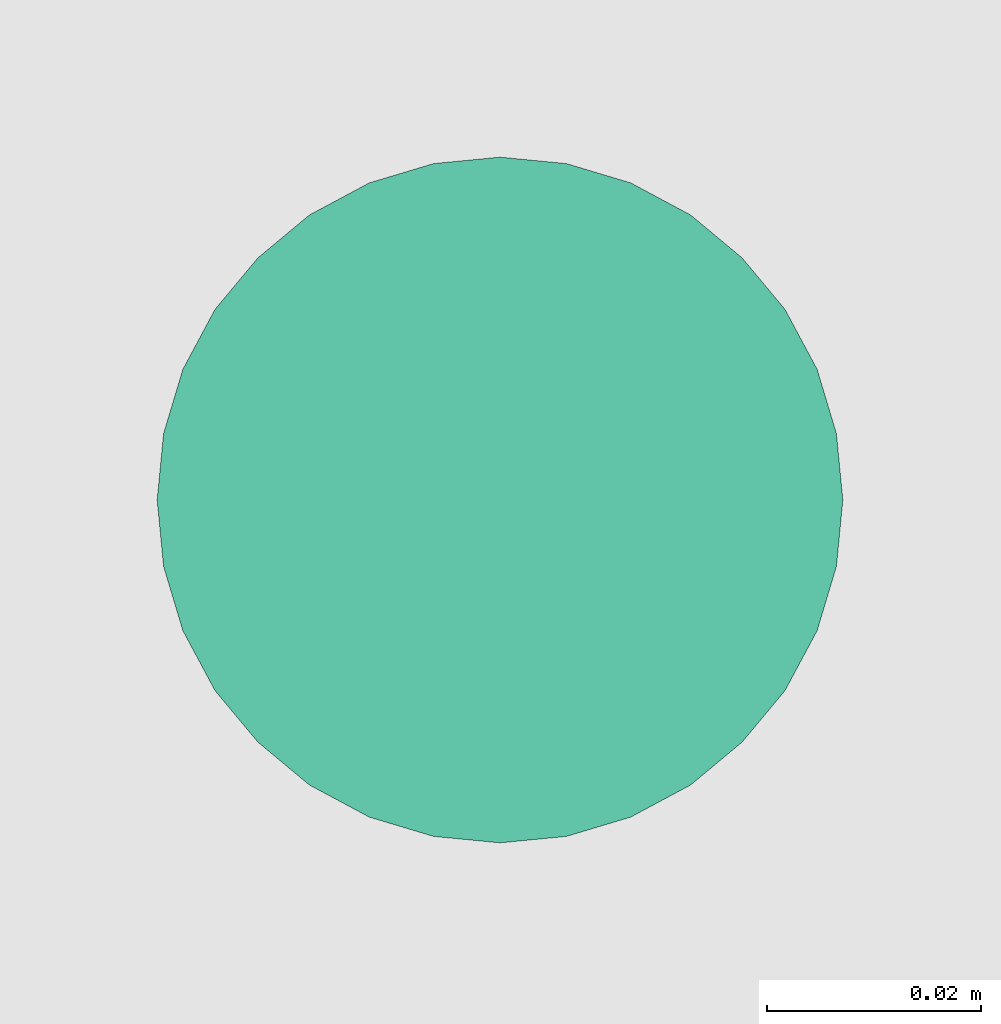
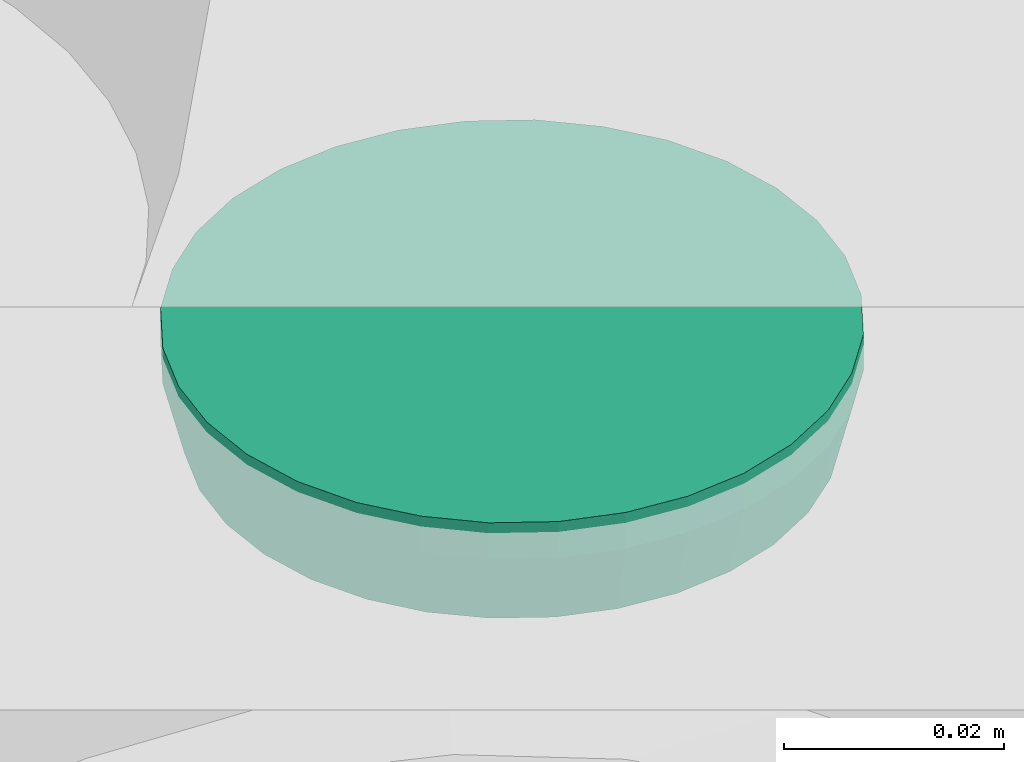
# One storey, part 11 of 11: 1 light fixture.
"""IFC4 building model written with IfcOpenShell, lengths in millimetres."""

from ifc_helpers import new_model, si_unit, frame, origin_with_axes, place, context, subcontext, project, spatial, triangles, material, constituent, constituent_set, element, save


model = new_model("IFC4")

# Units and contexts
model_context = context("Model", 3, precision=0.01, world=origin_with_axes())
body_context = subcontext(model_context, "Body", "Model", "MODEL_VIEW")
ifc_project = project(units=[si_unit("LENGTHUNIT", "METRE", prefix="MILLI"), si_unit("AREAUNIT", "SQUARE_METRE"), si_unit("VOLUMEUNIT", "CUBIC_METRE"), si_unit("PLANEANGLEUNIT", "RADIAN")], contexts=[model_context])

# Site, building, storey
site_placement = place(None, origin_with_axes())
site = spatial("IfcSite", under=ifc_project, at=site_placement, Name="Участок", CompositionType="ELEMENT")
building_placement = place(site_placement, origin_with_axes())
building = spatial("IfcBuilding", under=site, at=building_placement, Name="Жилой дом", CompositionType="ELEMENT")
storey_placement = place(building_placement, origin_with_axes())
storey = spatial("IfcBuildingStorey", under=building, at=storey_placement, Name="Квартира ±0,000", CompositionType="ELEMENT", Elevation=0.0)

# Light fixture
ifc_material_1 = material(Name="Латунь полированная (каркасы, ручки, светильники)")
ifc_constituent_1 = constituent(ifc_material_1)
ifc_material_2 = material(Name="Светодиодная лента (свечение)")
ifc_constituent_2 = constituent(ifc_material_2)
ifc_constituent_set = constituent_set(constituents=[ifc_constituent_1, ifc_constituent_2], Name="Латунь полированная (каркасы, ручки, светильники) + Светодиодная лента (свечение)")
light_fixture_placement = place(storey_placement, frame((1258.0, 3418.0, 1457.0)))
element("IfcLightFixture", 1, at=light_fixture_placement, inside=storey, material=ifc_constituent_set, Name="Светильник мебельный накладной (01г)", PredefinedType="POINTSOURCE", context=body_context, shape_type="Tessellation", body=[
    triangles([(32.0, 32.0, 1.0), (32.0, 32.0, 1.0), (32.0, 32.0, 1.0), (32.0, 32.0, 1.0), (32.0, 32.0, 1.0), (32.0, 32.0, 1.0), (32.0, 32.0, 1.0), (32.0, 32.0, 1.0), (32.0, 32.0, 1.0), (32.0, 32.0, 1.0), (32.0, 32.0, 1.0), (32.0, 32.0, 1.0), (32.0, 32.0, 1.0), (32.0, 32.0, 1.0), (32.0, 32.0, 1.0), (32.0, 32.0, 1.0), (32.0, 32.0, 1.0), (32.0, 32.0, 1.0), (32.0, 32.0, 1.0), (32.0, 32.0, 1.0), (32.0, 32.0, 1.0), (32.0, 32.0, 1.0), (32.0, 32.0, 1.0), (32.0, 32.0, 1.0), (32.0, 32.0, 1.0), (32.0, 32.0, 1.0), (32.0, 32.0, 1.0), (32.0, 32.0, 1.0), (32.0, 32.0, 1.0), (32.0, 32.0, 1.0), (32.0, 32.0, 1.0), (32.0, 32.0, 1.0), (62.0, 32.0, 1.0), (61.4, 37.9, 1.0), (59.7, 43.5, 1.0), (56.9, 48.7, 1.0), (53.2, 53.2, 1.0), (48.7, 56.9, 1.0), (43.5, 59.7, 1.0), (37.9, 61.4, 1.0), (32.0, 62.0, 1.0), (26.1, 61.4, 1.0), (20.5, 59.7, 1.0), (15.3, 56.9, 1.0), (10.8, 53.2, 1.0), (7.1, 48.7, 1.0), (4.3, 43.5, 1.0), (2.6, 37.9, 1.0), (2.0, 32.0, 1.0), (2.6, 26.1, 1.0), (4.3, 20.5, 1.0), (7.1, 15.3, 1.0), (10.8, 10.8, 1.0), (15.3, 7.1, 1.0), (20.5, 4.3, 1.0), (26.1, 2.6, 1.0), (32.0, 2.0, 1.0), (37.9, 2.6, 1.0), (43.5, 4.3, 1.0), (48.7, 7.1, 1.0), (53.2, 10.8, 1.0), (56.9, 15.3, 1.0), (59.7, 20.5, 1.0), (61.4, 26.1, 1.0), (64.0, 32.0, 9.0), (63.4, 38.2, 9.0), (61.6, 44.2, 9.0), (58.6, 49.8, 9.0), (54.6, 54.6, 9.0), (49.8, 58.6, 9.0), (44.2, 61.6, 9.0), (38.2, 63.4, 9.0), (32.0, 64.0, 9.0), (25.8, 63.4, 9.0), (19.8, 61.6, 9.0), (14.2, 58.6, 9.0), (9.4, 54.6, 9.0), (5.4, 49.8, 9.0), (2.4, 44.2, 9.0), (0.6, 38.2, 9.0), (0.0, 32.0, 9.0), (0.6, 25.8, 9.0), (2.4, 19.8, 9.0), (5.4, 14.2, 9.0), (9.4, 9.4, 9.0), (14.2, 5.4, 9.0), (19.8, 2.4, 9.0), (25.8, 0.6, 9.0), (32.0, 0.0, 9.0), (38.2, 0.6, 9.0), (44.2, 2.4, 9.0), (49.8, 5.4, 9.0), (54.6, 9.4, 9.0), (58.6, 14.2, 9.0), (61.6, 19.8, 9.0), (63.4, 25.8, 9.0), (64.0, 32.0, 13.0), (63.4, 38.2, 13.0), (61.6, 44.2, 13.0), (58.6, 49.8, 13.0), (54.6, 54.6, 13.0), (49.8, 58.6, 13.0), (44.2, 61.6, 13.0), (38.2, 63.4, 13.0), (32.0, 64.0, 13.0), (25.8, 63.4, 13.0), (19.8, 61.6, 13.0), (14.2, 58.6, 13.0), (9.4, 54.6, 13.0), (5.4, 49.8, 13.0), (2.4, 44.2, 13.0), (0.6, 38.2, 13.0), (0.0, 32.0, 13.0), (0.6, 25.8, 13.0), (2.4, 19.8, 13.0), (5.4, 14.2, 13.0), (9.4, 9.4, 13.0), (14.2, 5.4, 13.0), (19.8, 2.4, 13.0), (25.8, 0.6, 13.0), (32.0, 0.0, 13.0), (38.2, 0.6, 13.0), (44.2, 2.4, 13.0), (49.8, 5.4, 13.0), (54.6, 9.4, 13.0), (58.6, 14.2, 13.0), (61.6, 19.8, 13.0), (63.4, 25.8, 13.0), (32.0, 32.0, 13.0), (32.0, 32.0, 13.0), (32.0, 32.0, 13.0), (32.0, 32.0, 13.0), (32.0, 32.0, 13.0), (32.0, 32.0, 13.0), (32.0, 32.0, 13.0), (32.0, 32.0, 13.0), (32.0, 32.0, 13.0), (32.0, 32.0, 13.0), (32.0, 32.0, 13.0), (32.0, 32.0, 13.0), (32.0, 32.0, 13.0), (32.0, 32.0, 13.0), (32.0, 32.0, 13.0), (32.0, 32.0, 13.0), (32.0, 32.0, 13.0), (32.0, 32.0, 13.0), (32.0, 32.0, 13.0), (32.0, 32.0, 13.0), (32.0, 32.0, 13.0), (32.0, 32.0, 13.0), (32.0, 32.0, 13.0), (32.0, 32.0, 13.0), (32.0, 32.0, 13.0), (32.0, 32.0, 13.0), (32.0, 32.0, 13.0), (32.0, 32.0, 13.0), (32.0, 32.0, 13.0), (32.0, 32.0, 13.0), (32.0, 32.0, 13.0), (32.0, 32.0, 13.0)], [[1, 2, 34], [1, 34, 33], [2, 3, 35], [2, 35, 34], [3, 4, 36], [3, 36, 35], [4, 5, 37], [4, 37, 36], [5, 6, 38], [5, 38, 37], [6, 7, 39], [6, 39, 38], [7, 8, 40], [7, 40, 39], [8, 9, 41], [8, 41, 40], [9, 10, 42], [9, 42, 41], [10, 11, 43], [10, 43, 42], [11, 12, 44], [11, 44, 43], [12, 13, 45], [12, 45, 44], [13, 14, 46], [13, 46, 45], [14, 15, 47], [14, 47, 46], [15, 16, 48], [15, 48, 47], [16, 17, 49], [16, 49, 48], [17, 18, 50], [17, 50, 49], [18, 19, 51], [18, 51, 50], [19, 20, 52], [19, 52, 51], [20, 21, 53], [20, 53, 52], [21, 22, 54], [21, 54, 53], [22, 23, 55], [22, 55, 54], [23, 24, 56], [23, 56, 55], [24, 25, 57], [24, 57, 56], [25, 26, 58], [25, 58, 57], [26, 27, 59], [26, 59, 58], [27, 28, 60], [27, 60, 59], [28, 29, 61], [28, 61, 60], [29, 30, 62], [29, 62, 61], [30, 31, 63], [30, 63, 62], [31, 32, 64], [31, 64, 63], [32, 1, 33], [32, 33, 64], [33, 34, 66], [33, 66, 65], [34, 35, 67], [34, 67, 66], [35, 36, 68], [35, 68, 67], [36, 37, 69], [36, 69, 68], [37, 38, 70], [37, 70, 69], [38, 39, 71], [38, 71, 70], [39, 40, 72], [39, 72, 71], [40, 41, 73], [40, 73, 72], [41, 42, 74], [41, 74, 73], [42, 43, 75], [42, 75, 74], [43, 44, 76], [43, 76, 75], [44, 45, 77], [44, 77, 76], [45, 46, 78], [45, 78, 77], [46, 47, 79], [46, 79, 78], [47, 48, 80], [47, 80, 79], [48, 49, 81], [48, 81, 80], [49, 50, 82], [49, 82, 81], [50, 51, 83], [50, 83, 82], [51, 52, 84], [51, 84, 83], [52, 53, 85], [52, 85, 84], [53, 54, 86], [53, 86, 85], [54, 55, 87], [54, 87, 86], [55, 56, 88], [55, 88, 87], [56, 57, 89], [56, 89, 88], [57, 58, 90], [57, 90, 89], [58, 59, 91], [58, 91, 90], [59, 60, 92], [59, 92, 91], [60, 61, 93], [60, 93, 92], [61, 62, 94], [61, 94, 93], [62, 63, 95], [62, 95, 94], [63, 64, 96], [63, 96, 95], [64, 33, 65], [64, 65, 96], [65, 66, 98], [65, 98, 97], [66, 67, 99], [66, 99, 98], [67, 68, 100], [67, 100, 99], [68, 69, 101], [68, 101, 100], [69, 70, 102], [69, 102, 101], [70, 71, 103], [70, 103, 102], [71, 72, 104], [71, 104, 103], [72, 73, 105], [72, 105, 104], [73, 74, 106], [73, 106, 105], [74, 75, 107], [74, 107, 106], [75, 76, 108], [75, 108, 107], [76, 77, 109], [76, 109, 108], [77, 78, 110], [77, 110, 109], [78, 79, 111], [78, 111, 110], [79, 80, 112], [79, 112, 111], [80, 81, 113], [80, 113, 112], [81, 82, 114], [81, 114, 113], [82, 83, 115], [82, 115, 114], [83, 84, 116], [83, 116, 115], [84, 85, 117], [84, 117, 116], [85, 86, 118], [85, 118, 117], [86, 87, 119], [86, 119, 118], [87, 88, 120], [87, 120, 119], [88, 89, 121], [88, 121, 120], [89, 90, 122], [89, 122, 121], [90, 91, 123], [90, 123, 122], [91, 92, 124], [91, 124, 123], [92, 93, 125], [92, 125, 124], [93, 94, 126], [93, 126, 125], [94, 95, 127], [94, 127, 126], [95, 96, 128], [95, 128, 127], [96, 65, 97], [96, 97, 128], [97, 98, 130], [97, 130, 129], [98, 99, 131], [98, 131, 130], [99, 100, 132], [99, 132, 131], [100, 101, 133], [100, 133, 132], [101, 102, 134], [101, 134, 133], [102, 103, 135], [102, 135, 134], [103, 104, 136], [103, 136, 135], [104, 105, 137], [104, 137, 136], [105, 106, 138], [105, 138, 137], [106, 107, 139], [106, 139, 138], [107, 108, 140], [107, 140, 139], [108, 109, 141], [108, 141, 140], [109, 110, 142], [109, 142, 141], [110, 111, 143], [110, 143, 142], [111, 112, 144], [111, 144, 143], [112, 113, 145], [112, 145, 144], [113, 114, 146], [113, 146, 145], [114, 115, 147], [114, 147, 146], [115, 116, 148], [115, 148, 147], [116, 117, 149], [116, 149, 148], [117, 118, 150], [117, 150, 149], [118, 119, 151], [118, 151, 150], [119, 120, 152], [119, 152, 151], [120, 121, 153], [120, 153, 152], [121, 122, 154], [121, 154, 153], [122, 123, 155], [122, 155, 154], [123, 124, 156], [123, 156, 155], [124, 125, 157], [124, 157, 156], [125, 126, 158], [125, 158, 157], [126, 127, 159], [126, 159, 158], [127, 128, 160], [127, 160, 159], [128, 97, 129], [128, 129, 160]]),
    triangles([(32.0, 32.0, 0.0), (32.0, 32.0, 0.0), (32.0, 32.0, 0.0), (32.0, 32.0, 0.0), (32.0, 32.0, 0.0), (32.0, 32.0, 0.0), (32.0, 32.0, 0.0), (32.0, 32.0, 0.0), (32.0, 32.0, 0.0), (32.0, 32.0, 0.0), (32.0, 32.0, 0.0), (32.0, 32.0, 0.0), (32.0, 32.0, 0.0), (32.0, 32.0, 0.0), (32.0, 32.0, 0.0), (32.0, 32.0, 0.0), (32.0, 32.0, 0.0), (32.0, 32.0, 0.0), (32.0, 32.0, 0.0), (32.0, 32.0, 0.0), (32.0, 32.0, 0.0), (32.0, 32.0, 0.0), (32.0, 32.0, 0.0), (32.0, 32.0, 0.0), (50.0, 32.0, 0.0), (49.4, 36.7, 0.0), (47.6, 41.0, 0.0), (44.7, 44.7, 0.0), (41.0, 47.6, 0.0), (36.7, 49.4, 0.0), (32.0, 50.0, 0.0), (27.3, 49.4, 0.0), (23.0, 47.6, 0.0), (19.3, 44.7, 0.0), (16.4, 41.0, 0.0), (14.6, 36.7, 0.0), (14.0, 32.0, 0.0), (14.6, 27.3, 0.0), (16.4, 23.0, 0.0), (19.3, 19.3, 0.0), (23.0, 16.4, 0.0), (27.3, 14.6, 0.0), (32.0, 14.0, 0.0), (36.7, 14.6, 0.0), (41.0, 16.4, 0.0), (44.7, 19.3, 0.0), (47.6, 23.0, 0.0), (49.4, 27.3, 0.0), (50.0, 32.0, 1.0), (49.4, 36.7, 1.0), (47.6, 41.0, 1.0), (44.7, 44.7, 1.0), (41.0, 47.6, 1.0), (36.7, 49.4, 1.0), (32.0, 50.0, 1.0), (27.3, 49.4, 1.0), (23.0, 47.6, 1.0), (19.3, 44.7, 1.0), (16.4, 41.0, 1.0), (14.6, 36.7, 1.0), (14.0, 32.0, 1.0), (14.6, 27.3, 1.0), (16.4, 23.0, 1.0), (19.3, 19.3, 1.0), (23.0, 16.4, 1.0), (27.3, 14.6, 1.0), (32.0, 14.0, 1.0), (36.7, 14.6, 1.0), (41.0, 16.4, 1.0), (44.7, 19.3, 1.0), (47.6, 23.0, 1.0), (49.4, 27.3, 1.0), (32.0, 32.0, 1.0), (32.0, 32.0, 1.0), (32.0, 32.0, 1.0), (32.0, 32.0, 1.0), (32.0, 32.0, 1.0), (32.0, 32.0, 1.0), (32.0, 32.0, 1.0), (32.0, 32.0, 1.0), (32.0, 32.0, 1.0), (32.0, 32.0, 1.0), (32.0, 32.0, 1.0), (32.0, 32.0, 1.0), (32.0, 32.0, 1.0), (32.0, 32.0, 1.0), (32.0, 32.0, 1.0), (32.0, 32.0, 1.0), (32.0, 32.0, 1.0), (32.0, 32.0, 1.0), (32.0, 32.0, 1.0), (32.0, 32.0, 1.0), (32.0, 32.0, 1.0), (32.0, 32.0, 1.0), (32.0, 32.0, 1.0), (32.0, 32.0, 1.0)], [[1, 2, 26], [1, 26, 25], [2, 3, 27], [2, 27, 26], [3, 4, 28], [3, 28, 27], [4, 5, 29], [4, 29, 28], [5, 6, 30], [5, 30, 29], [6, 7, 31], [6, 31, 30], [7, 8, 32], [7, 32, 31], [8, 9, 33], [8, 33, 32], [9, 10, 34], [9, 34, 33], [10, 11, 35], [10, 35, 34], [11, 12, 36], [11, 36, 35], [12, 13, 37], [12, 37, 36], [13, 14, 38], [13, 38, 37], [14, 15, 39], [14, 39, 38], [15, 16, 40], [15, 40, 39], [16, 17, 41], [16, 41, 40], [17, 18, 42], [17, 42, 41], [18, 19, 43], [18, 43, 42], [19, 20, 44], [19, 44, 43], [20, 21, 45], [20, 45, 44], [21, 22, 46], [21, 46, 45], [22, 23, 47], [22, 47, 46], [23, 24, 48], [23, 48, 47], [24, 1, 25], [24, 25, 48], [25, 26, 50], [25, 50, 49], [26, 27, 51], [26, 51, 50], [27, 28, 52], [27, 52, 51], [28, 29, 53], [28, 53, 52], [29, 30, 54], [29, 54, 53], [30, 31, 55], [30, 55, 54], [31, 32, 56], [31, 56, 55], [32, 33, 57], [32, 57, 56], [33, 34, 58], [33, 58, 57], [34, 35, 59], [34, 59, 58], [35, 36, 60], [35, 60, 59], [36, 37, 61], [36, 61, 60], [37, 38, 62], [37, 62, 61], [38, 39, 63], [38, 63, 62], [39, 40, 64], [39, 64, 63], [40, 41, 65], [40, 65, 64], [41, 42, 66], [41, 66, 65], [42, 43, 67], [42, 67, 66], [43, 44, 68], [43, 68, 67], [44, 45, 69], [44, 69, 68], [45, 46, 70], [45, 70, 69], [46, 47, 71], [46, 71, 70], [47, 48, 72], [47, 72, 71], [48, 25, 49], [48, 49, 72], [49, 50, 74], [49, 74, 73], [50, 51, 75], [50, 75, 74], [51, 52, 76], [51, 76, 75], [52, 53, 77], [52, 77, 76], [53, 54, 78], [53, 78, 77], [54, 55, 79], [54, 79, 78], [55, 56, 80], [55, 80, 79], [56, 57, 81], [56, 81, 80], [57, 58, 82], [57, 82, 81], [58, 59, 83], [58, 83, 82], [59, 60, 84], [59, 84, 83], [60, 61, 85], [60, 85, 84], [61, 62, 86], [61, 86, 85], [62, 63, 87], [62, 87, 86], [63, 64, 88], [63, 88, 87], [64, 65, 89], [64, 89, 88], [65, 66, 90], [65, 90, 89], [66, 67, 91], [66, 91, 90], [67, 68, 92], [67, 92, 91], [68, 69, 93], [68, 93, 92], [69, 70, 94], [69, 94, 93], [70, 71, 95], [70, 95, 94], [71, 72, 96], [71, 96, 95], [72, 49, 73], [72, 73, 96]]),
])

save(model, "model.ifc")
